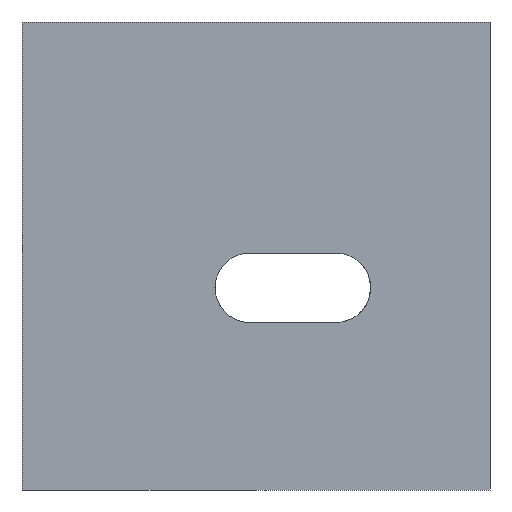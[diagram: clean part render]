
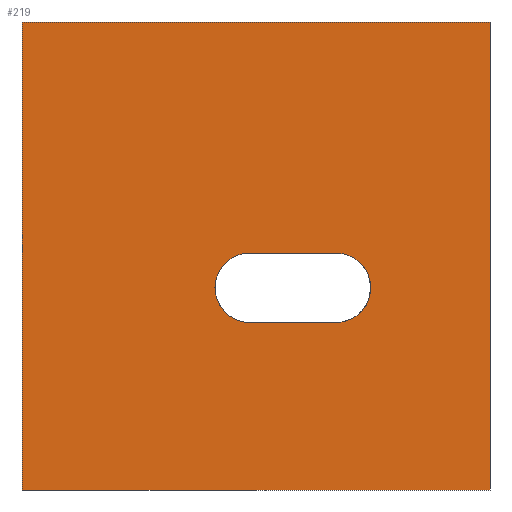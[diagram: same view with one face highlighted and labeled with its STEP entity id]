
A CAD part, left-side view. The second image highlights one B-rep face of the part: STEP entity #219.
In plain terms, the highlighted planar face has unit normal (-1, 0, 0).
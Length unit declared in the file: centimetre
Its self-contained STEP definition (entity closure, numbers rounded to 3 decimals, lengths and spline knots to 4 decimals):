
#4 = VECTOR ( 'NONE', #515, 100. ) ;
#6 = CARTESIAN_POINT ( 'NONE',  ( 0., 1000., 1000. ) ) ;
#13 = FACE_OUTER_BOUND ( 'NONE', #695, .T. ) ;
#32 = AXIS2_PLACEMENT_3D ( 'NONE', #1232, #696, #721 ) ;
#39 = CARTESIAN_POINT ( 'NONE',  ( 0., 1000., 0. ) ) ;
#45 = VECTOR ( 'NONE', #364, 100. ) ;
#91 = ORIENTED_EDGE ( 'NONE', *, *, #1122, .F. ) ;
#126 = CARTESIAN_POINT ( 'NONE',  ( 0., 329.1073, 506.2127 ) ) ;
#138 = LINE ( 'NONE', #915, #573 ) ;
#144 = DIRECTION ( 'NONE',  ( 0., 0., -1. ) ) ;
#145 = ORIENTED_EDGE ( 'NONE', *, *, #416, .T. ) ;
#147 = CARTESIAN_POINT ( 'NONE',  ( 0., 0., 0. ) ) ;
#176 = DIRECTION ( 'NONE',  ( 0., -1., 0. ) ) ;
#192 = VERTEX_POINT ( 'NONE', #126 ) ;
#219 = ADVANCED_FACE ( 'NONE', ( #1133, #13 ), #268, .F. ) ;
#228 = ORIENTED_EDGE ( 'NONE', *, *, #875, .F. ) ;
#252 = CARTESIAN_POINT ( 'NONE',  ( 0., 329.1073, 432.0909 ) ) ;
#255 = VECTOR ( 'NONE', #1545, 100. ) ;
#268 = PLANE ( 'NONE',  #438 ) ;
#293 = CARTESIAN_POINT ( 'NONE',  ( 0., 329.1073, 357.9692 ) ) ;
#305 = EDGE_CURVE ( 'NONE', #414, #474, #1153, .T. ) ;
#345 = CARTESIAN_POINT ( 'NONE',  ( 0., 1000., 1000. ) ) ;
#364 = DIRECTION ( 'NONE',  ( 0., 0., -1. ) ) ;
#414 = VERTEX_POINT ( 'NONE', #345 ) ;
#416 = EDGE_CURVE ( 'NONE', #414, #1135, #723, .T. ) ;
#429 = LINE ( 'NONE', #934, #255 ) ;
#437 = EDGE_CURVE ( 'NONE', #1463, #192, #963, .T. ) ;
#438 = AXIS2_PLACEMENT_3D ( 'NONE', #778, #653, #144 ) ;
#446 = CARTESIAN_POINT ( 'NONE',  ( 0., 1000., 0. ) ) ;
#474 = VERTEX_POINT ( 'NONE', #894 ) ;
#515 = DIRECTION ( 'NONE',  ( 0., -1., 0. ) ) ;
#573 = VECTOR ( 'NONE', #793, 100. ) ;
#575 = ORIENTED_EDGE ( 'NONE', *, *, #437, .F. ) ;
#590 = ORIENTED_EDGE ( 'NONE', *, *, #981, .F. ) ;
#596 = EDGE_CURVE ( 'NONE', #1135, #954, #673, .T. ) ;
#653 = DIRECTION ( 'NONE',  ( 1., 0., 0. ) ) ;
#673 = LINE ( 'NONE', #39, #1455 ) ;
#676 = AXIS2_PLACEMENT_3D ( 'NONE', #252, #843, #1393 ) ;
#695 = EDGE_LOOP ( 'NONE', ( #1444, #590, #748, #145 ) ) ;
#696 = DIRECTION ( 'NONE',  ( -1., 0., 0. ) ) ;
#721 = DIRECTION ( 'NONE',  ( 0., 0., -1. ) ) ;
#723 = LINE ( 'NONE', #6, #45 ) ;
#731 = VERTEX_POINT ( 'NONE', #1574 ) ;
#737 = CIRCLE ( 'NONE', #32, 74.1217 ) ;
#748 = ORIENTED_EDGE ( 'NONE', *, *, #305, .F. ) ;
#778 = CARTESIAN_POINT ( 'NONE',  ( 0., 1000., 1000. ) ) ;
#793 = DIRECTION ( 'NONE',  ( 0., 0., -1. ) ) ;
#843 = DIRECTION ( 'NONE',  ( -1., 0., 0. ) ) ;
#875 = EDGE_CURVE ( 'NONE', #1307, #1463, #1367, .T. ) ;
#894 = CARTESIAN_POINT ( 'NONE',  ( 0., 0., 1000. ) ) ;
#915 = CARTESIAN_POINT ( 'NONE',  ( 0., 0., 1000. ) ) ;
#934 = CARTESIAN_POINT ( 'NONE',  ( 0., 513.5462, 506.2127 ) ) ;
#954 = VERTEX_POINT ( 'NONE', #147 ) ;
#963 = CIRCLE ( 'NONE', #676, 74.1217 ) ;
#981 = EDGE_CURVE ( 'NONE', #474, #954, #138, .T. ) ;
#1096 = CARTESIAN_POINT ( 'NONE',  ( 0., 329.1073, 357.9692 ) ) ;
#1122 = EDGE_CURVE ( 'NONE', #731, #1307, #737, .T. ) ;
#1133 = FACE_BOUND ( 'NONE', #1154, .T. ) ;
#1135 = VERTEX_POINT ( 'NONE', #446 ) ;
#1153 = LINE ( 'NONE', #1377, #4 ) ;
#1154 = EDGE_LOOP ( 'NONE', ( #1434, #575, #228, #91 ) ) ;
#1232 = CARTESIAN_POINT ( 'NONE',  ( 0., 513.5462, 432.0909 ) ) ;
#1264 = DIRECTION ( 'NONE',  ( 0., -1., 0. ) ) ;
#1268 = CARTESIAN_POINT ( 'NONE',  ( 0., 513.5462, 357.9692 ) ) ;
#1306 = VECTOR ( 'NONE', #1264, 100. ) ;
#1307 = VERTEX_POINT ( 'NONE', #1268 ) ;
#1367 = LINE ( 'NONE', #1096, #1306 ) ;
#1377 = CARTESIAN_POINT ( 'NONE',  ( 0., 1000., 1000. ) ) ;
#1393 = DIRECTION ( 'NONE',  ( 0., 0., -1. ) ) ;
#1428 = EDGE_CURVE ( 'NONE', #192, #731, #429, .T. ) ;
#1434 = ORIENTED_EDGE ( 'NONE', *, *, #1428, .F. ) ;
#1444 = ORIENTED_EDGE ( 'NONE', *, *, #596, .T. ) ;
#1455 = VECTOR ( 'NONE', #176, 100. ) ;
#1463 = VERTEX_POINT ( 'NONE', #293 ) ;
#1545 = DIRECTION ( 'NONE',  ( 0., 1., 0. ) ) ;
#1574 = CARTESIAN_POINT ( 'NONE',  ( 0., 513.5462, 506.2127 ) ) ;
